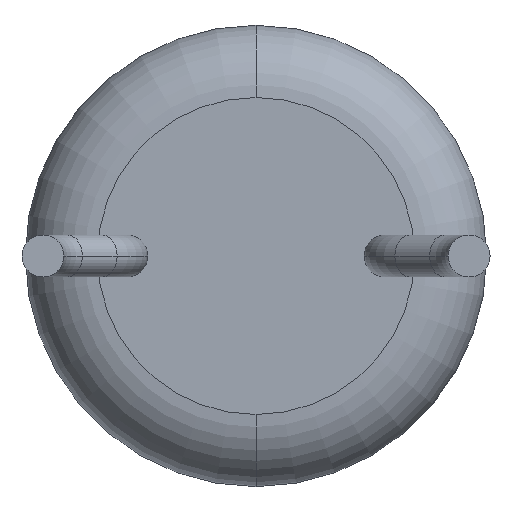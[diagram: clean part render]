
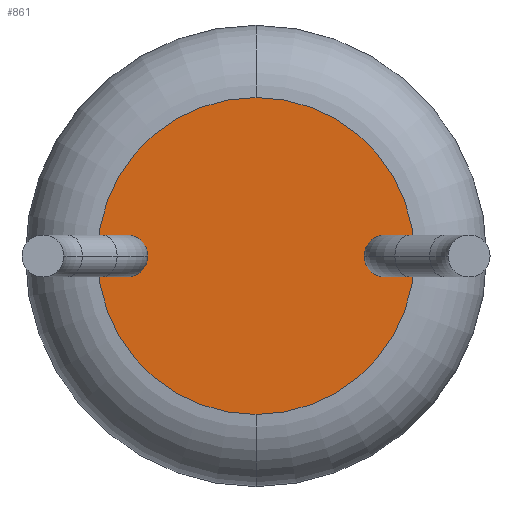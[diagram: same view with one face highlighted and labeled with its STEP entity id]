
A CAD part, front view. The second image highlights one B-rep face of the part: STEP entity #861.
In plain terms, the highlighted planar face has unit normal (0, -1, 0).
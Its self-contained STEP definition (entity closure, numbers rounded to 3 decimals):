
#813 = CARTESIAN_POINT ( 'NONE',  ( 0., 3., 1.89 ) ) ;
#814 = VERTEX_POINT ( 'NONE', #813 ) ;
#822 = CARTESIAN_POINT ( 'NONE',  ( 0., 3., -1.89 ) ) ;
#823 = VERTEX_POINT ( 'NONE', #822 ) ;
#824 = CARTESIAN_POINT ( 'NONE',  ( 0., 3., 0. ) ) ;
#825 = DIRECTION ( 'NONE',  ( 0., -1., 0. ) ) ;
#826 = DIRECTION ( 'NONE',  ( 0., 0., -1. ) ) ;
#827 = AXIS2_PLACEMENT_3D ( 'NONE', #824, #825, #826 ) ;
#828 = CIRCLE ( 'NONE', #827, 1.89) ;
#829 = EDGE_CURVE ( 'NONE', #823, #814, #828, .T. ) ;
#846 = ORIENTED_EDGE ( 'NONE', *, *, #829, .T. ) ;
#847 = CARTESIAN_POINT ( 'NONE',  ( 0., 3., 0. ) ) ;
#848 = DIRECTION ( 'NONE',  ( 0., -1., 0. ) ) ;
#849 = DIRECTION ( 'NONE',  ( 0., 0., -1. ) ) ;
#850 = AXIS2_PLACEMENT_3D ( 'NONE', #847, #848, #849 ) ;
#851 = CIRCLE ( 'NONE', #850, 1.89) ;
#852 = EDGE_CURVE ( 'NONE', #814, #823, #851, .T. ) ;
#853 = ORIENTED_EDGE ( 'NONE', *, *, #852, .T. ) ;
#854 = EDGE_LOOP ( 'NONE', ( #846, #853 ) ) ;
#855 = FACE_OUTER_BOUND ( 'NONE', #854, .T. ) ;
#856 = CARTESIAN_POINT ( 'NONE',  ( 0., 3., 0. ) ) ;
#857 = DIRECTION ( 'NONE',  ( 0., -1., 0. ) ) ;
#858 = DIRECTION ( 'NONE',  ( 0., 0., -1. ) ) ;
#859 = AXIS2_PLACEMENT_3D ( 'NONE', #856, #857, #858 ) ;
#860 = PLANE ( 'NONE', #859 ) ;
#861 = ADVANCED_FACE ( 'NONE', ( #855 ), #860, .T. ) ;
